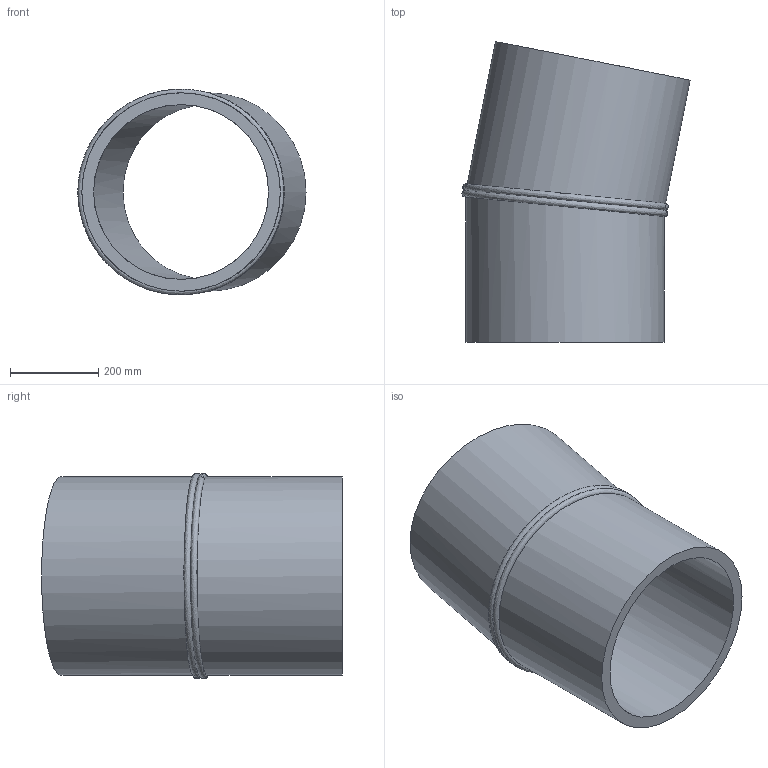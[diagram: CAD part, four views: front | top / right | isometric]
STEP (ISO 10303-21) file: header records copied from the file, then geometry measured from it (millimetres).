
FILE_DESCRIPTION(/* description */ ('Unknown'),/* implementation_level */ '2;1');
FILE_NAME(/* name */ 'Curva 11.25° a settore DE450 SDR17',/* time_stamp */ '2022-07-22T15:23:19+02:00',/* author */ ('Unknown'),/* organization */ ('Unknown'),/* preprocessor_version */ 'ST-DEVELOPER v18.102',/* originating_system */ 'Solid Edge',/* authorisation */ 'Unknown');
FILE_SCHEMA (('AUTOMOTIVE_DESIGN {1 0 10303 214 3 1 1}'));
Length unit declared in the file: millimetre
Products named in the file (2): Curva 11.25° a settore DE450 SDR17; Tubo x Gomito 11.25° DE450 SDR17
Assembly tree (2 placements, depth 2):
  Curva 11.25° a settore DE450 SDR17
    Tubo x Gomito 11.25° DE450 SDR17  x2
Bounding box: 517.48 x 682.03 x 466.45 mm (x, y, z)
Volume: 23163326.4 mm3; surface area: 1886426 mm2
Topology: 2 solids, 2 shells, 10 faces, 20 edges, 14 vertices
Faces by surface type: cylinder 4, plane 4, bspline 2
Full cylindrical faces by diameter (mm): 396.6 x2, 450 x2
Entity records: 770 total; most frequent: CARTESIAN_POINT 633, DIRECTION 20, ORIENTED_EDGE 10, EDGE_LOOP 10, FACE_BOUND 10, AXIS2_PLACEMENT_3D 10, EDGE_CURVE 5, VERTEX_POINT 5
